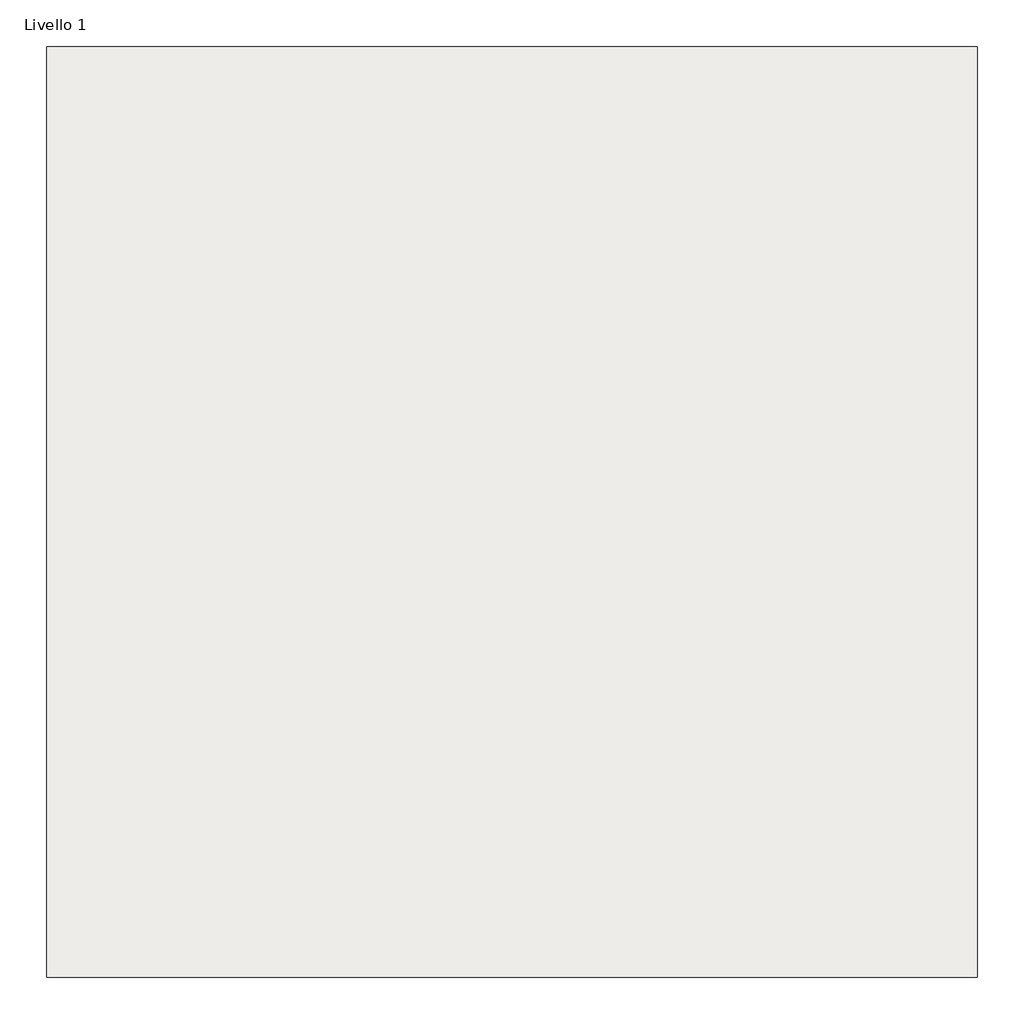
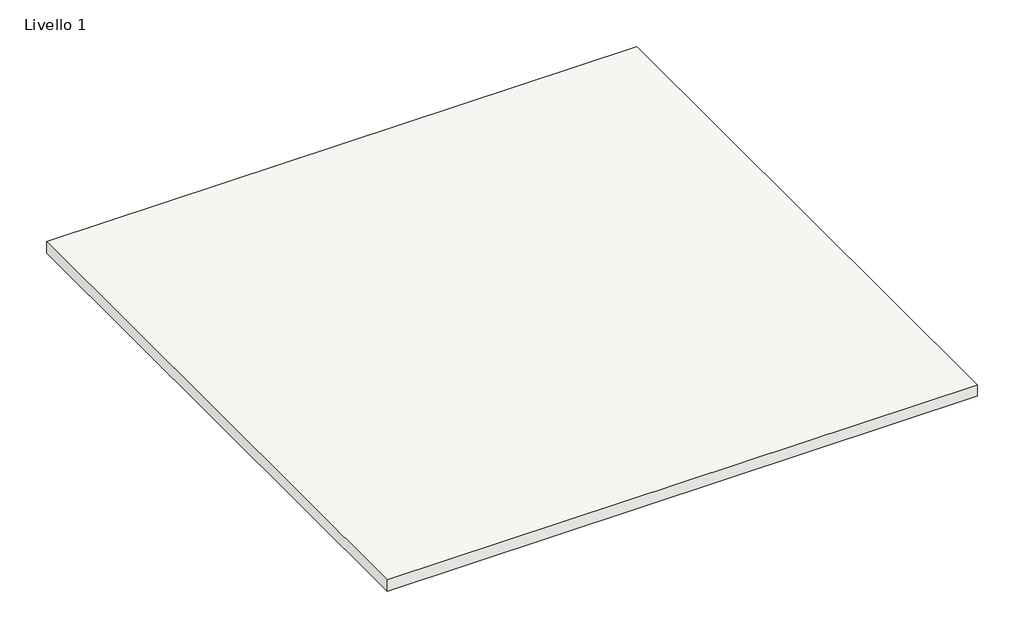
# One storey: 1 slab.
"""IFC4 building model written with IfcOpenShell, lengths in millimetres."""

import ifcopenshell
import ifcopenshell.guid

model = None  # the IFC model being written
_history = None  # IfcOwnerHistory: only IFC2X3 demands one
_inside = {}  # id of a spatial element -> (the spatial element, [elements in it])
_under = {}  # id of a project, library or spatial element -> (it, [spatial elements below it])
_declared = {}  # id of a project -> (the project, [libraries it declares])
_typed = {}  # id of a type object -> (the type object, [elements of that type])
_made_of = {}  # id of a material, layer set ... -> (it, [elements and type objects made of it])


def new_model(schema):
    """Start an empty IFC model of exactly this schema.

    Asked for "IFC4X3", IfcOpenShell would pick the latest addendum, in which some entities
    have other attributes; the version numbers below select the first issue.
    IFC2X3 requires an IfcOwnerHistory on every rooted entity: one is made here for all.
    """
    global model, _history
    if schema == "IFC4X3":
        model = ifcopenshell.file(schema_version=(4, 3, 0, 0))
    else:
        model = ifcopenshell.file(schema=schema)
    _inside.clear()
    _under.clear()
    _declared.clear()
    _typed.clear()
    _made_of.clear()
    _history = None
    if model.schema == "IFC2X3":
        org = make("IfcOrganization", Name="unknown")
        user = make(
            "IfcPersonAndOrganization",
            ThePerson=make("IfcPerson", FamilyName="unknown"),
            TheOrganization=org,
        )
        app = make(
            "IfcApplication",
            ApplicationDeveloper=org,
            Version="unknown",
            ApplicationFullName="unknown",
            ApplicationIdentifier="unknown",
        )
        _history = make(
            "IfcOwnerHistory",
            OwningUser=user,
            OwningApplication=app,
            ChangeAction="ADDED",
            CreationDate=0,
        )
    return model


def make(cls, **values):
    """One entity of the class cls with the attributes given. An attribute that is None is left unset."""
    return model.create_entity(
        cls, **{name: value for name, value in values.items() if value is not None}
    )


def rooted(cls, **values):
    """An entity with a GlobalId (a new one), such as an element, a storey or a relation."""
    return make(cls, GlobalId=ifcopenshell.guid.new(), OwnerHistory=_history, **values)


def si_unit(unit_type, name, prefix=None):
    """IfcSIUnit, for example si_unit("LENGTHUNIT", "METRE", prefix="MILLI")."""
    return make("IfcSIUnit", UnitType=unit_type, Prefix=prefix, Name=name)


def assignment(units):
    """IfcUnitAssignment: the units of a project."""
    return None if units is None else make("IfcUnitAssignment", Units=units)


def point(xyz):
    """IfcCartesianPoint."""
    return None if xyz is None else make("IfcCartesianPoint", Coordinates=xyz)


def direction(xyz):
    """IfcDirection."""
    return None if xyz is None else make("IfcDirection", DirectionRatios=xyz)


def frame(location, z_axis=None, x_axis=None):
    """IfcAxis2Placement3D, a coordinate frame: its origin and axes. An axis left out is left unset."""
    return make(
        "IfcAxis2Placement3D",
        Location=point(location),
        Axis=direction(z_axis),
        RefDirection=direction(x_axis),
    )


def origin():
    """The frame at (0, 0, 0) with its axes left unset."""
    return frame((0.0, 0.0, 0.0))


def place(relative_to, where):
    """IfcLocalPlacement: puts the frame where relative to a parent placement (None: the world)."""
    return make(
        "IfcLocalPlacement", PlacementRelTo=relative_to, RelativePlacement=where
    )


def context(
    kind, dimensions, precision=None, world=None, true_north=None, identifier=None
):
    """IfcGeometricRepresentationContext, for example the 3D "Model" context."""
    return make(
        "IfcGeometricRepresentationContext",
        ContextIdentifier=identifier,
        ContextType=kind,
        CoordinateSpaceDimension=dimensions,
        Precision=precision,
        WorldCoordinateSystem=world,
        TrueNorth=true_north,
    )


def project(units=None, contexts=None):
    """IfcProject with its units and contexts."""
    return rooted(
        "IfcProject",
        Name="project",
        RepresentationContexts=contexts,
        UnitsInContext=assignment(units),
    )


def spatial(cls, under=None, at=None, **own):
    """A site, building, storey or space (cls), placed at a placement, below another one or the project."""
    s = rooted(cls, ObjectPlacement=at, **own)
    if under is not None:
        _under.setdefault(under.id(), (under, []))[1].append(s)
    return s


def polyline(points):
    """IfcPolyline through the points."""
    return make("IfcPolyline", Points=[point(p) for p in points])


def outline(outer, holes=None, kind="AREA"):
    """IfcArbitraryClosedProfileDef: a profile drawn as a closed curve; with holes, ...WithVoids."""
    if holes is None:
        return make("IfcArbitraryClosedProfileDef", ProfileType=kind, OuterCurve=outer)
    return make(
        "IfcArbitraryProfileDefWithVoids",
        ProfileType=kind,
        OuterCurve=outer,
        InnerCurves=holes,
    )


def extrude(swept, where, along, depth):
    """IfcExtrudedAreaSolid: the profile swept, set in the frame where, extruded along a direction by depth."""
    return make(
        "IfcExtrudedAreaSolid",
        SweptArea=swept,
        Position=where,
        ExtrudedDirection=direction(along),
        Depth=depth,
    )


def shape(context_of_items, identifier, shape_type, items):
    """IfcShapeRepresentation: the items that make up one representation, for example the "Body"."""
    return make(
        "IfcShapeRepresentation",
        ContextOfItems=context_of_items,
        RepresentationIdentifier=identifier,
        RepresentationType=shape_type,
        Items=items,
    )


def made_of(thing, what):
    """Note that an element or type object is made of a material, layer set ...; save() writes the relation."""
    if what is not None:
        _made_of.setdefault(what.id(), (what, []))[1].append(thing)
    return thing


def element(
    cls,
    number,
    at=None,
    inside=None,
    cuts=None,
    type_object=None,
    material=None,
    context=None,
    identifier="Body",
    shape_type=None,
    held_by="IfcProductDefinitionShape",
    body=None,
    shapes=None,
    **own,
):
    """One element of the class cls, such as IfcWall. Its Tag is "e" and its number.

    at: its placement. inside: the storey or other place that contains it. cuts: it is an
    opening in that element (IfcRelVoidsElement). A single representation is given by context,
    identifier, shape_type and body (its items); several are given by shapes. held_by: the class
    of the entity that holds the representations. save() writes the other relations.
    """
    e = rooted(cls, Tag="e%d" % number, ObjectPlacement=at, **own)
    if body is not None:
        shapes = [shape(context, identifier, shape_type, body)]
    if shapes is not None:
        e.Representation = make(held_by, Representations=shapes)
    if inside is not None:
        _inside.setdefault(inside.id(), (inside, []))[1].append(e)
    if cuts is not None:
        rooted(
            "IfcRelVoidsElement", RelatingBuildingElement=cuts, RelatedOpeningElement=e
        )
    if type_object is not None:
        _typed.setdefault(type_object.id(), (type_object, []))[1].append(e)
    return made_of(e, material)


def aggregate(whole, parts):
    """IfcRelAggregates: a whole, such as a stair, and the parts it consists of."""
    return rooted("IfcRelAggregates", RelatingObject=whole, RelatedObjects=parts)


def save(model, path):
    """Write the relations noted so far, then the file.

    IfcRelAggregates (storeys below a building ...), IfcRelContainedInSpatialStructure (elements
    in a storey), IfcRelDefinesByType, IfcRelAssociatesMaterial and IfcRelDeclares: one each for
    every whole, place, type object, material and project.
    """
    for whole, parts in _under.values():
        aggregate(whole, parts)
    for where, things in _inside.values():
        rooted(
            "IfcRelContainedInSpatialStructure",
            RelatedElements=things,
            RelatingStructure=where,
        )
    for kind, things in _typed.values():
        rooted("IfcRelDefinesByType", RelatedObjects=things, RelatingType=kind)
    for what, things in _made_of.values():
        rooted("IfcRelAssociatesMaterial", RelatedObjects=things, RelatingMaterial=what)
    for by, libraries in _declared.values():
        rooted("IfcRelDeclares", RelatingContext=by, RelatedDefinitions=libraries)
    model.write(path)


model = new_model("IFC4")

# Units and contexts
model_context = context("Model", 3, world=origin())
ifc_project = project(units=[si_unit("LENGTHUNIT", "METRE", prefix="MILLI")], contexts=[model_context])

# Site, building, storey
site = spatial("IfcSite", under=ifc_project)
building = spatial("IfcBuilding", under=site)
storey = spatial("IfcBuildingStorey", under=building, Name="Livello 1", Elevation=0.0)

# Slab
placement = place(None, origin())
element("IfcSlab", 1, ObjectType="Isoplam -basso spessore per esterni effetto grip - Skygrip", at=placement, inside=storey, context=model_context, shape_type="SweptSolid", body=[
    extrude(outline(polyline([(-207.3599084, 3225.334668), (-207.3599084, -1774.665332), (-5207.3599084, -1774.665332), (-5207.3599084, 3225.334668), (-207.3599084, 3225.334668)])), frame((0.0, 0.0, -100.0), z_axis=(0.0, 0.0, 1.0), x_axis=(1.0, 0.0, 0.0)), (0.0, 0.0, 1.0), 100.0),
])

save(model, "model.ifc")
